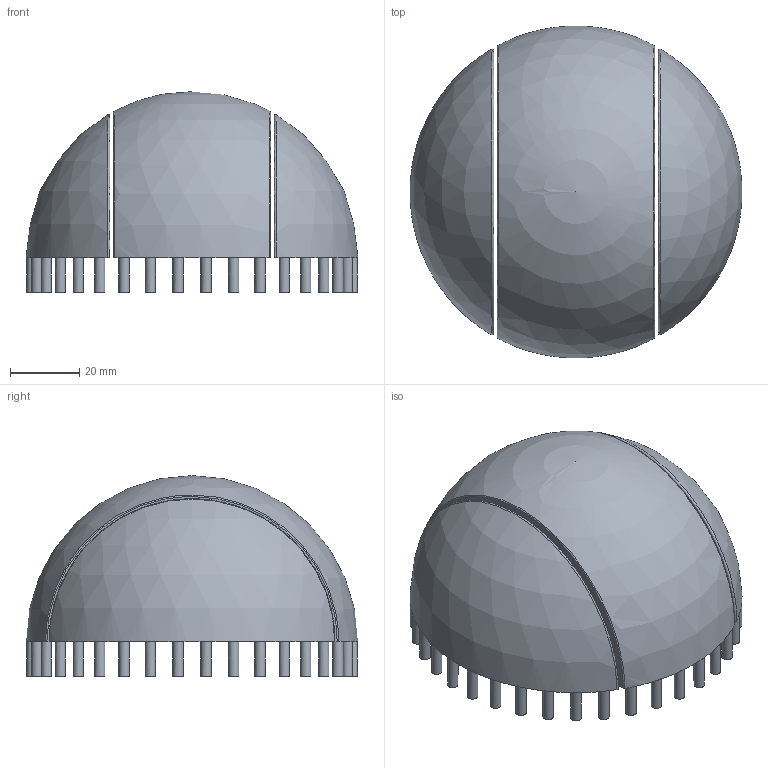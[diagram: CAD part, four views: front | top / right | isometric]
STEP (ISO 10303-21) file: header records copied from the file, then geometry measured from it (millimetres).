
FILE_DESCRIPTION(('Open CASCADE Model'),'2;1');
FILE_NAME('Open CASCADE Shape Model','2026-11-20T06:39:06',('Author'),( 'Open CASCADE'),'Open CASCADE STEP processor 7.8','Open CASCADE 7.8' ,'Unknown');
FILE_SCHEMA(('AUTOMOTIVE_DESIGN { 1 0 10303 214 1 1 1 1 }'));
Length unit declared in the file: millimetre
Products named in the file (4): A02_root_R050_water; Water_Xminus; Water_Center; Water_Xplus
Assembly tree (3 placements, depth 2):
  A02_root_R050_water
    Water_Xminus
    Water_Center
    Water_Xplus
Bounding box: 95.76 x 95.76 x 57.9 mm (x, y, z)
Volume: 42173.2 mm3; surface area: 32128.4 mm2
Topology: 3 solids, 3 shells, 132 faces, 310 edges, 182 vertices
Faces by surface type: plane 80, cylinder 36, bspline 10, sphere 6
Full cylindrical faces by diameter (mm): 3 x36
Entity records: 12566 total; most frequent: CARTESIAN_POINT 6872, DIRECTION 1064, ORIENTED_EDGE 616, PCURVE 616, DEFINITIONAL_REPRESENTATION 616, LINE 360, VECTOR 360, AXIS2_PLACEMENT_3D 352
